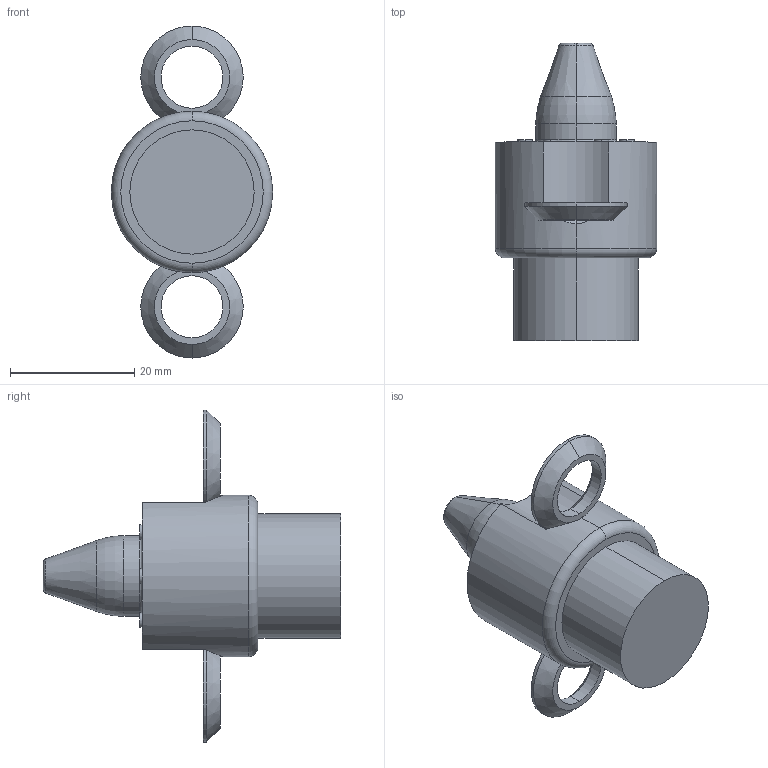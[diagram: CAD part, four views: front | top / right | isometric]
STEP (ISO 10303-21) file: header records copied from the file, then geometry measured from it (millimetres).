
FILE_DESCRIPTION (( 'STEP AP214' ), '1' );
FILE_NAME ('PA-13mm-2.5mm-P-F2.stp', '2020-05-04T11:10:14', ( '' ), ( '' ), 'SwSTEP 2.0', 'SolidWorks 2017', '' );
FILE_SCHEMA (( 'AUTOMOTIVE_DESIGN' ));
Length unit declared in the file: inch
Products named in the file (1): PA-13mm-2.5mm-P-F2
Bounding box: 26 x 47.92 x 53.51 mm (x, y, z)
Volume: 15527.3 mm3; surface area: 4618.9 mm2
Topology: 3 solids, 3 shells, 67 faces, 138 edges, 85 vertices
Faces by surface type: cylinder 28, cone 14, plane 14, torus 11
Entity records: 1902 total; most frequent: DIRECTION 354, CARTESIAN_POINT 347, ORIENTED_EDGE 276, AXIS2_PLACEMENT_3D 156, EDGE_CURVE 138, CIRCLE 88, VERTEX_POINT 85, EDGE_LOOP 79
